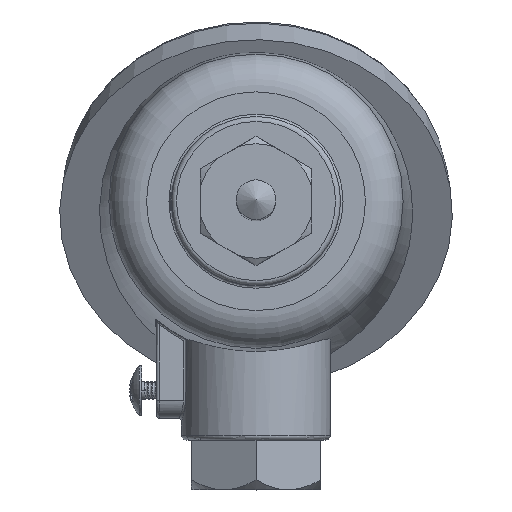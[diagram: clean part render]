
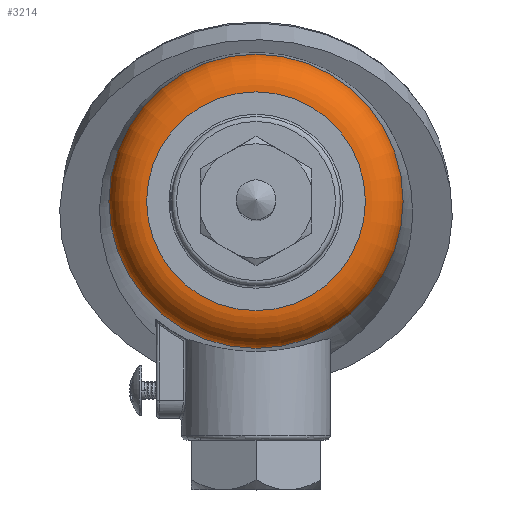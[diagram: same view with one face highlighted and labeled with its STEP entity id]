
A CAD part, top view. The second image highlights one B-rep face of the part: STEP entity #3214.
In plain terms, the highlighted toroidal (fillet/blend) face has major radius 22 mm and minor radius 7.622 mm.
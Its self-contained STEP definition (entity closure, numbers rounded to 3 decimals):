
#714 = FACE_OUTER_BOUND ( 'NONE', #3694, .T. ) ;
#878 = CIRCLE ( 'NONE', #1276, 29.597 ) ;
#1276 = AXIS2_PLACEMENT_3D ( 'NONE', #5830, #3266, #7681 ) ;
#1457 = AXIS2_PLACEMENT_3D ( 'NONE', #5965, #2278, #7316 ) ;
#1966 = EDGE_LOOP ( 'NONE', ( #8010 ) ) ;
#2262 = CIRCLE ( 'NONE', #5511, 22. ) ;
#2278 = DIRECTION ( 'NONE',  ( 0., 0., 1. ) ) ;
#2663 = FACE_OUTER_BOUND ( 'NONE', #1966, .T. ) ;
#3173 = VERTEX_POINT ( 'NONE', #3343 ) ;
#3214 = ADVANCED_FACE ( 'NONE', ( #714, #2663 ), #7250, .T. ) ;
#3266 = DIRECTION ( 'NONE',  ( 0., 0., 1. ) ) ;
#3343 = CARTESIAN_POINT ( 'NONE',  ( 0., -29.597, -32.6 ) ) ;
#3455 = EDGE_CURVE ( 'NONE', #5141, #5141, #2262, .T. ) ;
#3485 = DIRECTION ( 'NONE',  ( 0., -1., 0. ) ) ;
#3694 = EDGE_LOOP ( 'NONE', ( #4966 ) ) ;
#4169 = DIRECTION ( 'NONE',  ( 0., 0., 1. ) ) ;
#4656 = CARTESIAN_POINT ( 'NONE',  ( 0., -22., -25.6 ) ) ;
#4966 = ORIENTED_EDGE ( 'NONE', *, *, #8127, .T. ) ;
#5141 = VERTEX_POINT ( 'NONE', #4656 ) ;
#5511 = AXIS2_PLACEMENT_3D ( 'NONE', #7999, #4169, #3485 ) ;
#5830 = CARTESIAN_POINT ( 'NONE',  ( 0., 0., -32.6 ) ) ;
#5965 = CARTESIAN_POINT ( 'NONE',  ( 0., 0., -33.222 ) ) ;
#7250 = TOROIDAL_SURFACE ( 'NONE', #1457, 22., 7.622 ) ;
#7316 = DIRECTION ( 'NONE',  ( 0., -1., 0. ) ) ;
#7681 = DIRECTION ( 'NONE',  ( 0., -1., 0. ) ) ;
#7999 = CARTESIAN_POINT ( 'NONE',  ( 0., 0., -25.6 ) ) ;
#8010 = ORIENTED_EDGE ( 'NONE', *, *, #3455, .F. ) ;
#8127 = EDGE_CURVE ( 'NONE', #3173, #3173, #878, .T. ) ;
